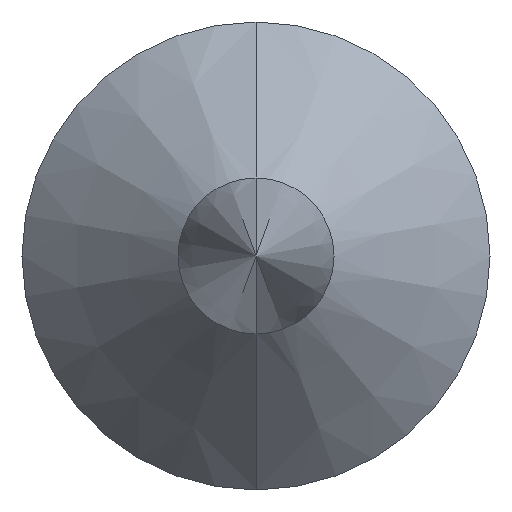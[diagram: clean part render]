
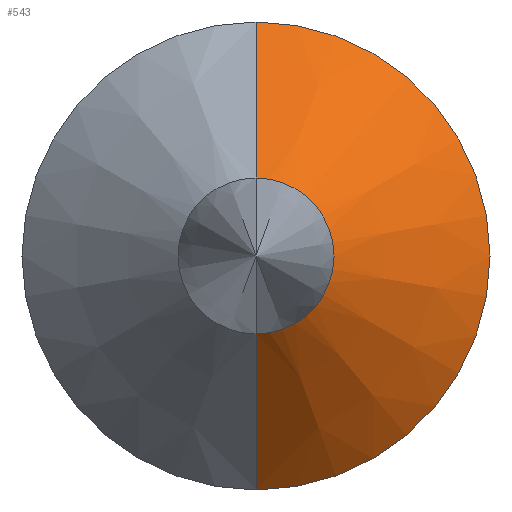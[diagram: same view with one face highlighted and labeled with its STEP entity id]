
A CAD part, left-side view. The second image highlights one B-rep face of the part: STEP entity #543.
In plain terms, the highlighted conical face has half-angle 45 degrees and reference radius 1 mm.
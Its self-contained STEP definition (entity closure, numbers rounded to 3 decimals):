
#9 = AXIS2_PLACEMENT_3D ( 'NONE', #671, #630, #681 ) ;
#54 = CIRCLE ( 'NONE', #447, 1. ) ;
#77 = CARTESIAN_POINT ( 'NONE',  ( -11.45, -31.49, 170.01 ) ) ;
#79 = LINE ( 'NONE', #687, #242 ) ;
#81 = ORIENTED_EDGE ( 'NONE', *, *, #576, .F. ) ;
#98 = CARTESIAN_POINT ( 'NONE',  ( -9.45, -31.49, 166.01 ) ) ;
#115 = CARTESIAN_POINT ( 'NONE',  ( -9.45, -31.49, 169.01 ) ) ;
#122 = VERTEX_POINT ( 'NONE', #77 ) ;
#171 = EDGE_CURVE ( 'NONE', #122, #454, #54, .T. ) ;
#213 = VERTEX_POINT ( 'NONE', #98 ) ;
#242 = VECTOR ( 'NONE', #418, 1000. ) ;
#243 = DIRECTION ( 'NONE',  ( 1., 0., 0. ) ) ;
#252 = EDGE_LOOP ( 'NONE', ( #337, #296, #445, #81 ) ) ;
#296 = ORIENTED_EDGE ( 'NONE', *, *, #525, .T. ) ;
#312 = CIRCLE ( 'NONE', #572, 3. ) ;
#337 = ORIENTED_EDGE ( 'NONE', *, *, #171, .T. ) ;
#363 = CARTESIAN_POINT ( 'NONE',  ( -11.45, -31.49, 169.01 ) ) ;
#396 = EDGE_CURVE ( 'NONE', #407, #213, #312, .T. ) ;
#407 = VERTEX_POINT ( 'NONE', #668 ) ;
#408 = LINE ( 'NONE', #634, #483 ) ;
#412 = DIRECTION ( 'NONE',  ( 0.707, 0., -0.707 ) ) ;
#418 = DIRECTION ( 'NONE',  ( 0.707, 0., 0.707 ) ) ;
#445 = ORIENTED_EDGE ( 'NONE', *, *, #396, .F. ) ;
#446 = DIRECTION ( 'NONE',  ( 1., 0., 0. ) ) ;
#447 = AXIS2_PLACEMENT_3D ( 'NONE', #363, #243, #680 ) ;
#454 = VERTEX_POINT ( 'NONE', #603 ) ;
#483 = VECTOR ( 'NONE', #412, 1000. ) ;
#508 = DIRECTION ( 'NONE',  ( 0., 0., 1. ) ) ;
#524 = FACE_OUTER_BOUND ( 'NONE', #252, .T. ) ;
#525 = EDGE_CURVE ( 'NONE', #454, #213, #408, .T. ) ;
#543 = ADVANCED_FACE ( 'NONE', ( #524 ), #642, .T. ) ;
#572 = AXIS2_PLACEMENT_3D ( 'NONE', #115, #446, #508 ) ;
#576 = EDGE_CURVE ( 'NONE', #122, #407, #79, .T. ) ;
#603 = CARTESIAN_POINT ( 'NONE',  ( -11.45, -31.49, 168.01 ) ) ;
#630 = DIRECTION ( 'NONE',  ( 1., 0., 0. ) ) ;
#634 = CARTESIAN_POINT ( 'NONE',  ( -11.45, -31.49, 168.01 ) ) ;
#642 = CONICAL_SURFACE ( 'NONE', #9, 1., 0.785 ) ;
#668 = CARTESIAN_POINT ( 'NONE',  ( -9.45, -31.49, 172.01 ) ) ;
#671 = CARTESIAN_POINT ( 'NONE',  ( -11.45, -31.49, 169.01 ) ) ;
#680 = DIRECTION ( 'NONE',  ( 0., 0., 1. ) ) ;
#681 = DIRECTION ( 'NONE',  ( 0., 0., 1. ) ) ;
#687 = CARTESIAN_POINT ( 'NONE',  ( -11.45, -31.49, 170.01 ) ) ;
